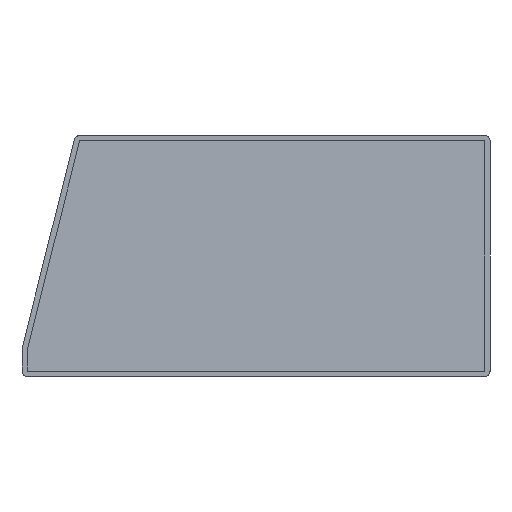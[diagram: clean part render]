
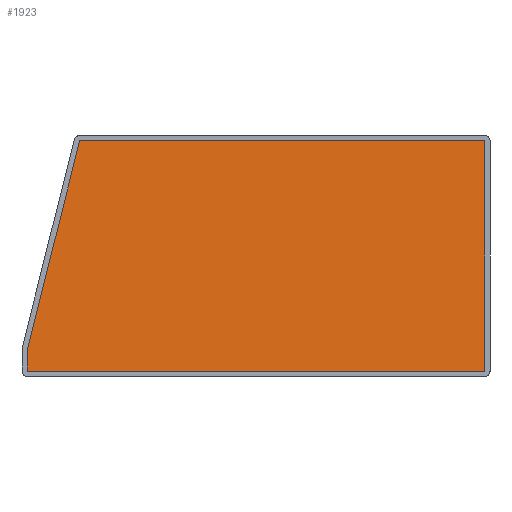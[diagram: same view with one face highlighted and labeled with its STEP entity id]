
A CAD part, front view. The second image highlights one B-rep face of the part: STEP entity #1923.
In plain terms, the highlighted planar face has unit normal (0, -0.998, 0.057).
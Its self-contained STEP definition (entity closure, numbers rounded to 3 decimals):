
#164=PLANE('',#2144);
#270=FACE_OUTER_BOUND('',#398,.T.);
#398=EDGE_LOOP('',(#1687,#1688,#1689,#1690,#1691));
#525=LINE('',#5191,#670);
#527=LINE('',#5195,#672);
#529=LINE('',#5199,#674);
#530=LINE('',#5201,#675);
#531=LINE('',#5202,#676);
#670=VECTOR('',#2643,10.);
#672=VECTOR('',#2647,10.);
#674=VECTOR('',#2651,10.);
#675=VECTOR('',#2652,10.);
#676=VECTOR('',#2653,10.);
#922=VERTEX_POINT('',#4260);
#932=VERTEX_POINT('',#5190);
#933=VERTEX_POINT('',#5194);
#934=VERTEX_POINT('',#5198);
#935=VERTEX_POINT('',#5200);
#1189=EDGE_CURVE('',#932,#922,#525,.T.);
#1191=EDGE_CURVE('',#933,#932,#527,.T.);
#1193=EDGE_CURVE('',#934,#933,#529,.T.);
#1194=EDGE_CURVE('',#935,#934,#530,.T.);
#1195=EDGE_CURVE('',#922,#935,#531,.T.);
#1687=ORIENTED_EDGE('',*,*,#1191,.F.);
#1688=ORIENTED_EDGE('',*,*,#1193,.F.);
#1689=ORIENTED_EDGE('',*,*,#1194,.F.);
#1690=ORIENTED_EDGE('',*,*,#1195,.F.);
#1691=ORIENTED_EDGE('',*,*,#1189,.F.);
#1923=ADVANCED_FACE('',(#270),#164,.T.);
#2144=AXIS2_PLACEMENT_3D('',#5197,#2649,#2650);
#2643=DIRECTION('',(1.,0.,0.));
#2647=DIRECTION('',(0.242,0.056,0.969));
#2649=DIRECTION('center_axis',(0.,-0.998,
0.057));
#2650=DIRECTION('ref_axis',(1.,0.,0.));
#2651=DIRECTION('',(0.,0.057,0.998));
#2652=DIRECTION('',(-1.,0.,0.));
#2653=DIRECTION('',(0.,-0.057,-0.998));
#4260=CARTESIAN_POINT('',(149.5,-10.,0.));
#5190=CARTESIAN_POINT('',(0.,-10.,0.));
#5191=CARTESIAN_POINT('',(149.5,-10.,0.));
#5194=CARTESIAN_POINT('',(-19.25,-14.425,-77.));
#5195=CARTESIAN_POINT('',(-12.586,-12.893,-50.344));
#5197=CARTESIAN_POINT('Origin',(65.125,-12.443,-42.5));
#5198=CARTESIAN_POINT('',(-19.25,-14.885,-85.));
#5199=CARTESIAN_POINT('',(-19.25,-13.631,-63.182));
#5200=CARTESIAN_POINT('',(149.5,-14.885,-85.));
#5201=CARTESIAN_POINT('',(107.313,-14.885,-85.));
#5202=CARTESIAN_POINT('',(149.5,-11.197,-20.822));
